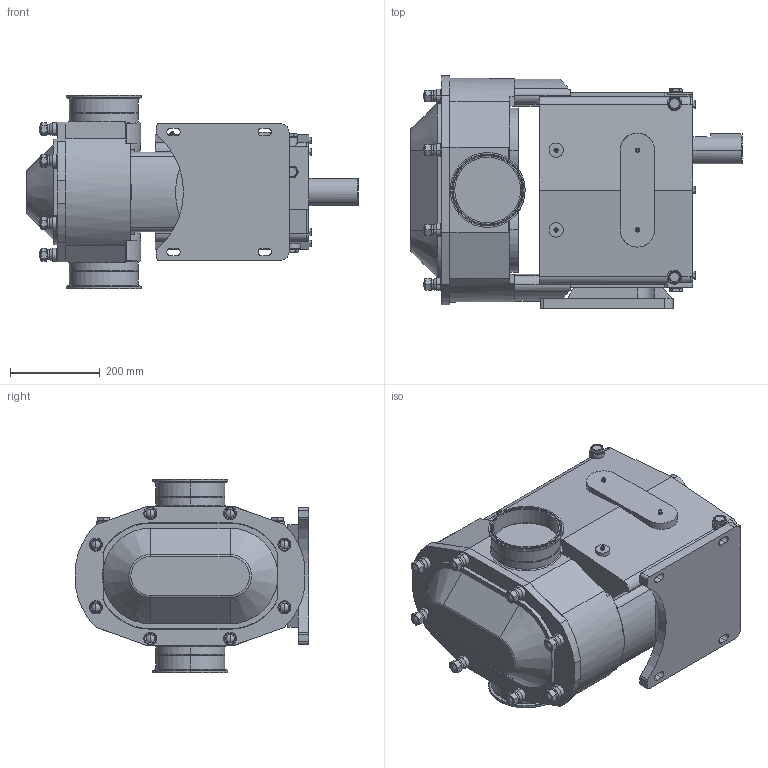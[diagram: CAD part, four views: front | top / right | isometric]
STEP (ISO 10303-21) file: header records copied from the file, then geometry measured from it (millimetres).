
FILE_DESCRIPTION (( 'STEP AP203' ), '1' );
FILE_NAME ('Joined_370_U2_Upper Shaft.STEP', '2008-03-25T15:32:04', ( ' ' ), ( ' ' ), 'SwSTEP 2.0', 'SolidWorks 2006104', '' );
FILE_SCHEMA (( 'CONFIG_CONTROL_DESIGN' ));
Length unit declared in the file: inch
Products named in the file (1): Joined_370_U2_Upper Shaft
Bounding box: 739.52 x 519.02 x 431.8 mm (x, y, z)
Volume: 66208022.3 mm3; surface area: 1633918.9 mm2
Topology: 1 solids, 31 shells, 1537 faces, 3734 edges, 2363 vertices
Faces by surface type: plane 777, cylinder 327, cone 245, bspline 111, torus 61, sphere 16
Entity records: 52767 total; most frequent: CARTESIAN_POINT 17583, ORIENTED_EDGE 7348, DIRECTION 6945, EDGE_CURVE 3674, AXIS2_PLACEMENT_3D 2373, VERTEX_POINT 2363, VECTOR 2199, LINE 2199
